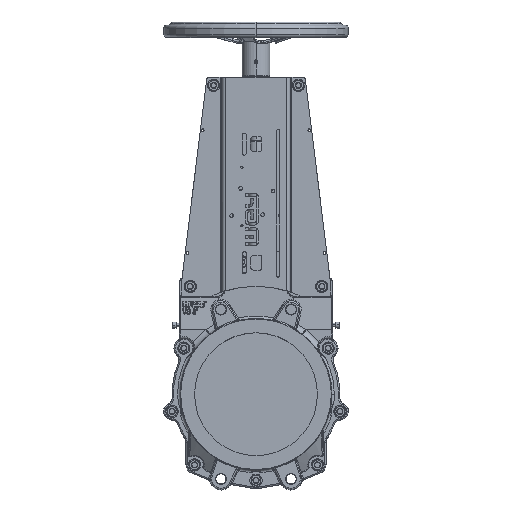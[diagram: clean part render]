
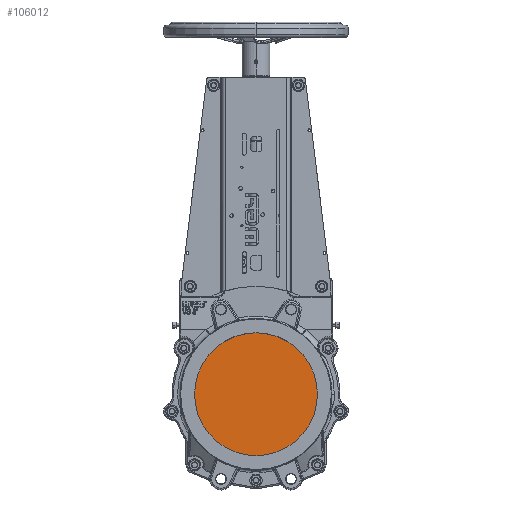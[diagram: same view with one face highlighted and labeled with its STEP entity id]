
A CAD part, top view. The second image highlights one B-rep face of the part: STEP entity #106012.
In plain terms, the highlighted planar face has unit normal (0, 0, 1).
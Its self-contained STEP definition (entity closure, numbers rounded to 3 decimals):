
#6282 = ORIENTED_EDGE ( 'NONE', *, *, #99843, .T. ) ;
#13669 = FACE_OUTER_BOUND ( 'NONE', #53166, .T. ) ;
#17176 = AXIS2_PLACEMENT_3D ( 'NONE', #120411, #55967, #131296 ) ;
#26552 = EDGE_CURVE ( 'NONE', #84375, #88279, #121526, .T. ) ;
#35362 = AXIS2_PLACEMENT_3D ( 'NONE', #40272, #115565, #51161 ) ;
#40272 = CARTESIAN_POINT ( 'NONE',  ( 0., 0., -0.25 ) ) ;
#44981 = DIRECTION ( 'NONE',  ( 0., 0., -1. ) ) ;
#51161 = DIRECTION ( 'NONE',  ( 1., 0., 0. ) ) ;
#53166 = EDGE_LOOP ( 'NONE', ( #126008, #6282 ) ) ;
#55967 = DIRECTION ( 'NONE',  ( 0., 0., 1. ) ) ;
#83111 = CARTESIAN_POINT ( 'NONE',  ( 100., 0., -0.25 ) ) ;
#84375 = VERTEX_POINT ( 'NONE', #83111 ) ;
#87402 = PLANE ( 'NONE',  #115864 ) ;
#88279 = VERTEX_POINT ( 'NONE', #103860 ) ;
#99843 = EDGE_CURVE ( 'NONE', #88279, #84375, #103748, .T. ) ;
#103748 = CIRCLE ( 'NONE', #17176, 100. ) ;
#103860 = CARTESIAN_POINT ( 'NONE',  ( -100., 0., -0.25 ) ) ;
#106012 = ADVANCED_FACE ( 'NONE', ( #13669 ), #87402, .F. ) ;
#109477 = CARTESIAN_POINT ( 'NONE',  ( 96., 233., -0.25 ) ) ;
#115565 = DIRECTION ( 'NONE',  ( 0., 0., 1. ) ) ;
#115864 = AXIS2_PLACEMENT_3D ( 'NONE', #109477, #44981, #120280 ) ;
#120280 = DIRECTION ( 'NONE',  ( -1., 0., 0. ) ) ;
#120411 = CARTESIAN_POINT ( 'NONE',  ( 0., 0., -0.25 ) ) ;
#121526 = CIRCLE ( 'NONE', #35362, 100. ) ;
#126008 = ORIENTED_EDGE ( 'NONE', *, *, #26552, .T. ) ;
#131296 = DIRECTION ( 'NONE',  ( 1., 0., 0. ) ) ;
